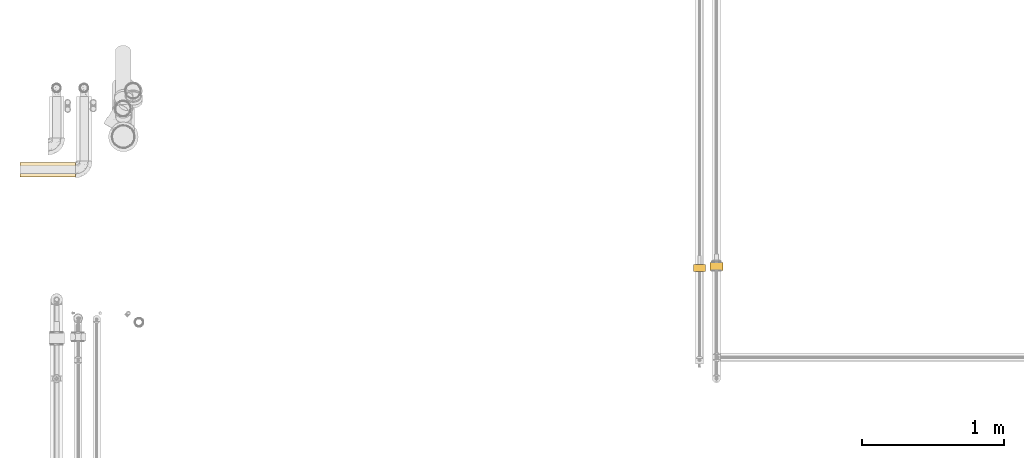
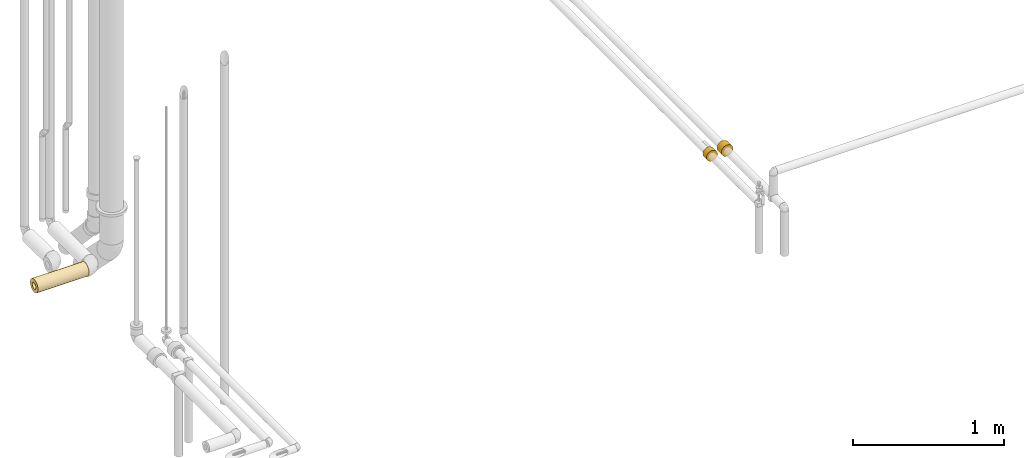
# One storey, part 10 of 78: 3 coverings.
"""IFC2X3 building model written with IfcOpenShell, lengths in millimetres."""

import ifcopenshell
import ifcopenshell.guid

model = None  # the IFC model being written
_history = None  # IfcOwnerHistory: only IFC2X3 demands one
_inside = {}  # id of a spatial element -> (the spatial element, [elements in it])
_under = {}  # id of a project, library or spatial element -> (it, [spatial elements below it])
_declared = {}  # id of a project -> (the project, [libraries it declares])
_typed = {}  # id of a type object -> (the type object, [elements of that type])
_made_of = {}  # id of a material, layer set ... -> (it, [elements and type objects made of it])


def new_model(schema):
    """Start an empty IFC model of exactly this schema.

    Asked for "IFC4X3", IfcOpenShell would pick the latest addendum, in which some entities
    have other attributes; the version numbers below select the first issue.
    IFC2X3 requires an IfcOwnerHistory on every rooted entity: one is made here for all.
    """
    global model, _history
    if schema == "IFC4X3":
        model = ifcopenshell.file(schema_version=(4, 3, 0, 0))
    else:
        model = ifcopenshell.file(schema=schema)
    _inside.clear()
    _under.clear()
    _declared.clear()
    _typed.clear()
    _made_of.clear()
    _history = None
    if model.schema == "IFC2X3":
        org = make("IfcOrganization", Name="unknown")
        user = make(
            "IfcPersonAndOrganization",
            ThePerson=make("IfcPerson", FamilyName="unknown"),
            TheOrganization=org,
        )
        app = make(
            "IfcApplication",
            ApplicationDeveloper=org,
            Version="unknown",
            ApplicationFullName="unknown",
            ApplicationIdentifier="unknown",
        )
        _history = make(
            "IfcOwnerHistory",
            OwningUser=user,
            OwningApplication=app,
            ChangeAction="ADDED",
            CreationDate=0,
        )
    return model


def make(cls, **values):
    """One entity of the class cls with the attributes given. An attribute that is None is left unset."""
    return model.create_entity(
        cls, **{name: value for name, value in values.items() if value is not None}
    )


def entity(cls, *values):
    """Any entity or typed value of the class cls, its attributes in the order of the schema. None: left unset."""
    e = model.create_entity(cls)
    for i, value in enumerate(values):
        if value is not None:
            e[i] = value
    return e


def rooted(cls, **values):
    """An entity with a GlobalId (a new one), such as an element, a storey or a relation."""
    return make(cls, GlobalId=ifcopenshell.guid.new(), OwnerHistory=_history, **values)


def si_unit(unit_type, name, prefix=None):
    """IfcSIUnit, for example si_unit("LENGTHUNIT", "METRE", prefix="MILLI")."""
    return make("IfcSIUnit", UnitType=unit_type, Prefix=prefix, Name=name)


def converted_unit(unit_type, name, factor, base, dimensions=None, offset=None):
    """IfcConversionBasedUnit, such as the inch: factor (a typed value) times the base unit."""
    return make(
        "IfcConversionBasedUnit"
        if offset is None
        else "IfcConversionBasedUnitWithOffset",
        ConversionOffset=offset,
        Dimensions=None
        if dimensions is None
        else entity("IfcDimensionalExponents", *dimensions),
        UnitType=unit_type,
        Name=name,
        ConversionFactor=make(
            "IfcMeasureWithUnit", ValueComponent=factor, UnitComponent=base
        ),
    )


def derived_unit(unit_type, elements):
    """IfcDerivedUnit: a product of units, each with its exponent."""
    return make(
        "IfcDerivedUnit",
        Elements=[
            make("IfcDerivedUnitElement", Unit=unit, Exponent=power)
            for unit, power in elements
        ],
        UnitType=unit_type,
    )


def assignment(units):
    """IfcUnitAssignment: the units of a project."""
    return None if units is None else make("IfcUnitAssignment", Units=units)


def point(xyz):
    """IfcCartesianPoint."""
    return None if xyz is None else make("IfcCartesianPoint", Coordinates=xyz)


def direction(xyz):
    """IfcDirection."""
    return None if xyz is None else make("IfcDirection", DirectionRatios=xyz)


def frame(location, z_axis=None, x_axis=None):
    """IfcAxis2Placement3D, a coordinate frame: its origin and axes. An axis left out is left unset."""
    return make(
        "IfcAxis2Placement3D",
        Location=point(location),
        Axis=direction(z_axis),
        RefDirection=direction(x_axis),
    )


def origin_with_axes():
    """The frame at (0, 0, 0) with the z axis (0, 0, 1) and the x axis (1, 0, 0) written out."""
    return frame((0.0, 0.0, 0.0), z_axis=(0.0, 0.0, 1.0), x_axis=(1.0, 0.0, 0.0))


def place(relative_to, where):
    """IfcLocalPlacement: puts the frame where relative to a parent placement (None: the world)."""
    return make(
        "IfcLocalPlacement", PlacementRelTo=relative_to, RelativePlacement=where
    )


def context(
    kind, dimensions, precision=None, world=None, true_north=None, identifier=None
):
    """IfcGeometricRepresentationContext, for example the 3D "Model" context."""
    return make(
        "IfcGeometricRepresentationContext",
        ContextIdentifier=identifier,
        ContextType=kind,
        CoordinateSpaceDimension=dimensions,
        Precision=precision,
        WorldCoordinateSystem=world,
        TrueNorth=true_north,
    )


def subcontext(parent, identifier, kind, view, scale=None):
    """IfcGeometricRepresentationSubContext, for example "Body" below "Model"."""
    return make(
        "IfcGeometricRepresentationSubContext",
        ContextIdentifier=identifier,
        ContextType=kind,
        ParentContext=parent,
        TargetScale=scale,
        TargetView=view,
    )


def project(units=None, contexts=None):
    """IfcProject with its units and contexts."""
    return rooted(
        "IfcProject",
        Name="project",
        RepresentationContexts=contexts,
        UnitsInContext=assignment(units),
    )


def spatial(cls, under=None, at=None, **own):
    """A site, building, storey or space (cls), placed at a placement, below another one or the project."""
    s = rooted(cls, ObjectPlacement=at, **own)
    if under is not None:
        _under.setdefault(under.id(), (under, []))[1].append(s)
    return s


def faces_of(points, faces, orient=None, outer=None):
    """IfcFace entities. A face is a list of loops; a loop is a list of indices into points, from 0.

    orient and outer hold one flag for each loop. By default every Orientation is true, the
    first loop of a face is its IfcFaceOuterBound and the others are IfcFaceBound.
    """
    made = []
    for i, loops in enumerate(faces):
        bounds = []
        for j, loop in enumerate(loops):
            is_outer = j == 0 if outer is None else outer[i][j]
            bounds.append(
                make(
                    "IfcFaceOuterBound" if is_outer else "IfcFaceBound",
                    Bound=make("IfcPolyLoop", Polygon=[points[k] for k in loop]),
                    Orientation=True if orient is None else orient[i][j],
                )
            )
        made.append(make("IfcFace", Bounds=bounds))
    return made


def open_shell(faces, orient=None, outer=None):
    """The faces of one IfcOpenShell. surface_model builds it on its shared points."""
    return ("IfcOpenShell", faces, orient, outer)


def faceted_brep(points, faces, orient=None, outer=None, voids=None):
    """IfcFacetedBrep: a solid bounded by flat faces; with voids (closed shells), ...WithVoids."""
    shared = [point(p) for p in points]
    hull = make("IfcClosedShell", CfsFaces=faces_of(shared, faces, orient, outer))
    if voids is None:
        return make("IfcFacetedBrep", Outer=hull)
    return make(
        "IfcFacetedBrepWithVoids",
        Outer=hull,
        Voids=[
            make(cls, CfsFaces=faces_of(shared, fs, o, b)) for cls, fs, o, b in voids
        ],
    )


def surface_model(cls, points, shells):
    """IfcFaceBasedSurfaceModel or IfcShellBasedSurfaceModel (cls): surfaces that need not close."""
    shared = [point(p) for p in points]
    made = [make(c, CfsFaces=faces_of(shared, fs, o, b)) for c, fs, o, b in shells]
    if cls == "IfcFaceBasedSurfaceModel":
        return make(cls, FbsmFaces=made)
    return make(cls, SbsmBoundary=made)


def shape(context_of_items, identifier, shape_type, items):
    """IfcShapeRepresentation: the items that make up one representation, for example the "Body"."""
    return make(
        "IfcShapeRepresentation",
        ContextOfItems=context_of_items,
        RepresentationIdentifier=identifier,
        RepresentationType=shape_type,
        Items=items,
    )


def source(mapping_origin, context_of_items, identifier, shape_type, items):
    """IfcRepresentationMap: a shape defined once, which mapped items show again and again."""
    return make(
        "IfcRepresentationMap",
        MappingOrigin=mapping_origin,
        MappedRepresentation=shape(context_of_items, identifier, shape_type, items),
    )


def transform(
    local_origin,
    x_axis=None,
    y_axis=None,
    z_axis=None,
    scale=None,
    scale2=None,
    scale3=None,
    uniform=True,
):
    """IfcCartesianTransformationOperator3D, or its non-uniform kind. x_axis, y_axis, z_axis: its Axis1, 2, 3."""
    if uniform:
        return make(
            "IfcCartesianTransformationOperator3D",
            Axis1=direction(x_axis),
            Axis2=direction(y_axis),
            LocalOrigin=point(local_origin),
            Scale=scale,
            Axis3=direction(z_axis),
        )
    return make(
        "IfcCartesianTransformationOperator3DnonUniform",
        Axis1=direction(x_axis),
        Axis2=direction(y_axis),
        LocalOrigin=point(local_origin),
        Scale=scale,
        Axis3=direction(z_axis),
        Scale2=scale2,
        Scale3=scale3,
    )


def mapped(mapping_source, mapping_target):
    """IfcMappedItem: shows the shape of a source again, moved by a transform."""
    return make(
        "IfcMappedItem", MappingSource=mapping_source, MappingTarget=mapping_target
    )


def made_of(thing, what):
    """Note that an element or type object is made of a material, layer set ...; save() writes the relation."""
    if what is not None:
        _made_of.setdefault(what.id(), (what, []))[1].append(thing)
    return thing


def element(
    cls,
    number,
    at=None,
    inside=None,
    cuts=None,
    type_object=None,
    material=None,
    context=None,
    identifier="Body",
    shape_type=None,
    held_by="IfcProductDefinitionShape",
    body=None,
    shapes=None,
    **own,
):
    """One element of the class cls, such as IfcWall. Its Tag is "e" and its number.

    at: its placement. inside: the storey or other place that contains it. cuts: it is an
    opening in that element (IfcRelVoidsElement). A single representation is given by context,
    identifier, shape_type and body (its items); several are given by shapes. held_by: the class
    of the entity that holds the representations. save() writes the other relations.
    """
    e = rooted(cls, Tag="e%d" % number, ObjectPlacement=at, **own)
    if body is not None:
        shapes = [shape(context, identifier, shape_type, body)]
    if shapes is not None:
        e.Representation = make(held_by, Representations=shapes)
    if inside is not None:
        _inside.setdefault(inside.id(), (inside, []))[1].append(e)
    if cuts is not None:
        rooted(
            "IfcRelVoidsElement", RelatingBuildingElement=cuts, RelatedOpeningElement=e
        )
    if type_object is not None:
        _typed.setdefault(type_object.id(), (type_object, []))[1].append(e)
    return made_of(e, material)


def aggregate(whole, parts):
    """IfcRelAggregates: a whole, such as a stair, and the parts it consists of."""
    return rooted("IfcRelAggregates", RelatingObject=whole, RelatedObjects=parts)


def save(model, path):
    """Write the relations noted so far, then the file.

    IfcRelAggregates (storeys below a building ...), IfcRelContainedInSpatialStructure (elements
    in a storey), IfcRelDefinesByType, IfcRelAssociatesMaterial and IfcRelDeclares: one each for
    every whole, place, type object, material and project.
    """
    for whole, parts in _under.values():
        aggregate(whole, parts)
    for where, things in _inside.values():
        rooted(
            "IfcRelContainedInSpatialStructure",
            RelatedElements=things,
            RelatingStructure=where,
        )
    for kind, things in _typed.values():
        rooted("IfcRelDefinesByType", RelatedObjects=things, RelatingType=kind)
    for what, things in _made_of.values():
        rooted("IfcRelAssociatesMaterial", RelatedObjects=things, RelatingMaterial=what)
    for by, libraries in _declared.values():
        rooted("IfcRelDeclares", RelatingContext=by, RelatedDefinitions=libraries)
    model.write(path)


model = new_model("IFC2X3")

# Units and contexts
model_context = context("Model", 3, precision=0.01, world=frame((0.0, 4.29681676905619e-09, 0.0)), true_north=direction((4.01073788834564e-13, 1.0)))
plan_context = context("Plan", 3, precision=0.01, world=frame((0.0, 4.29681676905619e-09, 0.0)), true_north=direction((4.01073788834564e-13, 1.0)))
body_context = subcontext(model_context, "Body", "Model", "MODEL_VIEW")
ifc_project = project(units=[converted_unit("PLANEANGLEUNIT", "DEGREE", entity("IfcPositiveLengthMeasure", 0.0174532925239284), si_unit("PLANEANGLEUNIT", "RADIAN"), dimensions=[0, 0, 0, 0, 0, 0, 0]), si_unit("AREAUNIT", "SQUARE_METRE"), si_unit("LENGTHUNIT", "METRE", prefix="MILLI"), si_unit("MASSUNIT", "GRAM", prefix="KILO"), si_unit("POWERUNIT", "WATT"), si_unit("PRESSUREUNIT", "PASCAL"), si_unit("FORCEUNIT", "NEWTON", prefix="KILO"), si_unit("ELECTRICVOLTAGEUNIT", "VOLT"), si_unit("ELECTRICCURRENTUNIT", "AMPERE"), si_unit("THERMODYNAMICTEMPERATUREUNIT", "DEGREE_CELSIUS"), si_unit("TIMEUNIT", "SECOND"), si_unit("VOLUMEUNIT", "CUBIC_METRE"), derived_unit("LINEARVELOCITYUNIT", [(si_unit("LENGTHUNIT", "METRE"), 1), (si_unit("TIMEUNIT", "SECOND"), -1)]), derived_unit("VOLUMETRICFLOWRATEUNIT", [(si_unit("VOLUMEUNIT", "CUBIC_METRE"), 1), (si_unit("TIMEUNIT", "SECOND"), -1)]), derived_unit("THERMALTRANSMITTANCEUNIT", [(si_unit("POWERUNIT", "WATT"), 1), (si_unit("THERMODYNAMICTEMPERATUREUNIT", "KELVIN"), -1), (si_unit("AREAUNIT", "SQUARE_METRE"), -1)]), derived_unit("SOUNDPRESSUREUNIT", [(si_unit("PRESSUREUNIT", "PASCAL"), 1)])], contexts=[model_context, plan_context])

# Site, building, storey
site_placement = place(None, frame((0.0, -4.29681676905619e-09, 0.0), z_axis=(0.0, 0.0, 1.0), x_axis=(1.0, 0.0, 0.0)))
site = spatial("IfcSite", under=ifc_project, at=site_placement, Name="ENGM", CompositionType="ELEMENT")
building_placement = place(site_placement, frame((0.0, 4.29681676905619e-09, 0.0), z_axis=(0.0, 0.0, 1.0), x_axis=(1.0, 0.0, 0.0)))
building = spatial("IfcBuilding", under=site, at=building_placement, Name="TH", CompositionType="ELEMENT")
storey_placement = place(building_placement, frame((0.0, 0.0, 205200.0), z_axis=(0.0, 0.0, 1.0), x_axis=(1.0, 0.0, 0.0)))
storey = spatial("IfcBuildingStorey", under=building, at=storey_placement, Name="Nivå D + 1,2 m", CompositionType="ELEMENT", Elevation=205200.0)

# Coverings
shared_shape_1 = source(origin_with_axes(), body_context, "Body", "SurfaceModel", [
    surface_model("IfcShellBasedSurfaceModel", [(-24.5, 10.93769, 40.82002), (-24.5, -10.93769, 40.82002), (-24.5, 0.0, 42.26), (-24.5, 29.88233, 29.88233), (-24.5, 21.13, 36.59823), (-24.5, 36.59823, 21.13), (-24.5, 40.82002, 10.93769), (-24.5, -29.88233, 29.88233), (-24.5, -21.13, 36.59823), (-24.5, -36.59823, 21.13), (-24.5, -40.82002, 10.93769), (-24.5, -40.82002, -10.93769), (-24.5, -42.26, 0.0), (-24.5, 40.82002, -10.93769), (-24.5, 10.93769, -40.82002), (-24.5, 36.59823, -21.13), (-24.5, 29.88233, -29.88233), (-24.5, 21.13, -36.59823), (-24.5, -21.13, -36.59823), (-24.5, -36.59823, -21.13), (-24.5, -29.88233, -29.88233), (-24.5, 0.0, -42.26), (-24.5, -10.93769, -40.82002), (-24.5, 42.26, 0.0), (-8.15, 42.26, 0.0), (7.0, 40.82002, 10.93769), (7.0, 36.59823, 21.13), (7.0, 42.26, 0.0), (7.0, 29.88233, 29.88233), (7.0, 21.13, 36.59823), (-8.15, 0.0, 42.26), (7.0, 10.93769, 40.82002), (7.0, 0.0, 42.26), (7.0, -10.93769, 40.82002), (7.0, -21.13, 36.59823), (7.0, -29.88233, 29.88233), (7.0, -36.59823, 21.13), (-8.15, -42.26, 0.0), (7.0, -40.82002, 10.93769), (7.0, -42.26, 0.0), (7.0, -40.82002, -10.93769), (7.0, -36.59823, -21.13), (7.0, -29.88233, -29.88233), (7.0, -21.13, -36.59823), (7.0, -10.93769, -40.82002), (-8.15, 0.0, -42.26), (7.0, 0.0, -42.26), (7.0, 10.93769, -40.82002), (7.0, 21.13, -36.59823), (7.0, 29.88233, -29.88233), (7.0, 36.59823, -21.13), (7.0, 40.82002, -10.93769), (24.5, -10.93769, 40.82002), (24.5, 10.93769, 40.82002), (24.5, 0.0, 42.26), (24.5, -29.88233, 29.88233), (24.5, -21.13, 36.59823), (24.5, -36.59823, 21.13), (24.5, -40.82002, 10.93769), (24.5, 29.88233, 29.88233), (24.5, 21.13, 36.59823), (24.5, 36.59823, 21.13), (24.5, 40.82002, 10.93769), (24.5, 40.82002, -10.93769), (24.5, 42.26, 0.0), (24.5, -40.82002, -10.93769), (24.5, -10.93769, -40.82002), (24.5, -36.59823, -21.13), (24.5, -29.88233, -29.88233), (24.5, -21.13, -36.59823), (24.5, 21.13, -36.59823), (24.5, 36.59823, -21.13), (24.5, 29.88233, -29.88233), (24.5, 0.0, -42.26), (24.5, 10.93769, -40.82002), (24.5, -42.26, 0.0)], [open_shell([[[0, 1, 2]], [[3, 0, 4]], [[3, 5, 6]], [[3, 6, 0]], [[1, 0, 6]], [[1, 7, 8]], [[7, 1, 9]], [[10, 11, 12]], [[9, 1, 6]], [[10, 9, 11]], [[9, 6, 13]], [[11, 9, 13]], [[14, 13, 15]], [[16, 17, 14]], [[16, 14, 15]], [[18, 13, 14]], [[19, 18, 20]], [[19, 11, 13]], [[18, 21, 22]], [[18, 19, 13]], [[21, 18, 14]], [[13, 6, 23]], [[24, 23, 6]], [[24, 6, 25]], [[26, 6, 5]], [[27, 24, 25]], [[26, 25, 6]], [[28, 26, 5]], [[5, 3, 28]], [[4, 29, 28]], [[4, 0, 29]], [[30, 0, 2]], [[29, 0, 31]], [[30, 32, 31]], [[0, 30, 31]], [[4, 28, 3]], [[30, 2, 1]], [[30, 1, 33]], [[34, 1, 8]], [[32, 30, 33]], [[34, 33, 1]], [[35, 34, 8]], [[8, 7, 35]], [[36, 7, 9]], [[10, 12, 37]], [[38, 9, 10]], [[36, 9, 38]], [[37, 39, 38]], [[10, 37, 38]], [[7, 36, 35]], [[37, 12, 11]], [[37, 11, 40]], [[41, 11, 19]], [[39, 37, 40]], [[41, 40, 11]], [[42, 41, 19]], [[19, 20, 42]], [[43, 20, 18]], [[18, 22, 44]], [[21, 45, 22]], [[43, 18, 44]], [[45, 46, 44]], [[22, 45, 44]], [[20, 43, 42]], [[45, 21, 14]], [[45, 14, 47]], [[48, 14, 17]], [[46, 45, 47]], [[48, 47, 14]], [[49, 48, 17]], [[17, 16, 49]], [[50, 16, 15]], [[15, 13, 51]], [[23, 24, 13]], [[50, 15, 51]], [[24, 27, 51]], [[13, 24, 51]], [[16, 50, 49]], [[52, 53, 54]], [[55, 52, 56]], [[55, 57, 58]], [[55, 58, 52]], [[53, 52, 58]], [[53, 59, 60]], [[59, 53, 61]], [[62, 63, 64]], [[61, 53, 58]], [[62, 61, 63]], [[61, 58, 65]], [[63, 61, 65]], [[66, 65, 67]], [[68, 69, 66]], [[68, 66, 67]], [[70, 65, 66]], [[71, 70, 72]], [[71, 63, 65]], [[70, 73, 74]], [[70, 71, 65]], [[73, 70, 66]], [[65, 58, 75]], [[38, 75, 58]], [[36, 58, 57]], [[39, 75, 38]], [[36, 38, 58]], [[35, 36, 57]], [[57, 55, 35]], [[34, 55, 56]], [[33, 56, 52]], [[34, 56, 33]], [[32, 33, 52]], [[54, 32, 52]], [[55, 34, 35]], [[31, 54, 53]], [[29, 53, 60]], [[32, 54, 31]], [[29, 31, 53]], [[28, 29, 60]], [[60, 59, 28]], [[26, 59, 61]], [[25, 61, 62]], [[26, 61, 25]], [[27, 25, 62]], [[64, 27, 62]], [[59, 26, 28]], [[51, 64, 63]], [[50, 63, 71]], [[27, 64, 51]], [[50, 51, 63]], [[49, 50, 71]], [[71, 72, 49]], [[48, 72, 70]], [[47, 70, 74]], [[48, 70, 47]], [[46, 47, 74]], [[73, 46, 74]], [[72, 48, 49]], [[44, 73, 66]], [[43, 66, 69]], [[46, 73, 44]], [[43, 44, 66]], [[42, 43, 69]], [[69, 68, 42]], [[41, 68, 67]], [[40, 67, 65]], [[41, 67, 40]], [[39, 40, 65]], [[75, 39, 65]], [[68, 41, 42]]])]),
])
covering_1_placement = place(storey_placement, frame((899890.50163, 478903.93178, 4212.79203000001), z_axis=(0.0, 0.0, 1.0), x_axis=(0.0, 1.0, 0.0)))
element("IfcCovering", 1, at=covering_1_placement, inside=storey, Name="BI16T - Rørskål m/Al.folie - VV 40mm", PredefinedType="INSULATION", context=body_context, shape_type="MappedRepresentation", body=[
    mapped(shared_shape_1, transform((0.0, 0.0, 0.0), scale=1.0)),
])
shared_shape_2 = source(origin_with_axes(), body_context, "Body", "SurfaceModel", [
    surface_model("IfcShellBasedSurfaceModel", [(-29.0, 0.0, 44.94), (-29.0, 11.63133, 43.40871), (-29.0, 22.47, 38.91918), (-29.0, -38.91918, 22.47), (-29.0, 31.77738, 31.77738), (-29.0, 38.91918, 22.47), (-29.0, 43.40871, 11.63133), (-29.0, -11.63133, 43.40871), (-29.0, -31.77738, 31.77738), (-29.0, -22.47, 38.91918), (-29.0, -43.40871, 11.63133), (-29.0, -43.40871, -11.63133), (-29.0, -44.94, 0.0), (-29.0, 44.94, 0.0), (-29.0, 43.40871, -11.63133), (-29.0, -22.47, -38.91918), (-29.0, 11.63133, -43.40871), (-29.0, 38.91918, -22.47), (-29.0, 22.47, -38.91918), (-29.0, 31.77738, -31.77738), (-29.0, -31.77738, -31.77738), (-29.0, -38.91918, -22.47), (-29.0, 0.0, -44.94), (-29.0, -11.63133, -43.40871), (-5.2, 44.94, 0.0), (4.0, 43.40871, 11.63133), (4.0, 38.91918, 22.47), (4.0, 44.94, 0.0), (4.0, 31.77738, 31.77738), (4.0, 22.47, 38.91918), (-5.2, 0.0, 44.94), (4.0, 11.63133, 43.40871), (4.0, 0.0, 44.94), (4.0, -11.63133, 43.40871), (4.0, -22.47, 38.91918), (4.0, -31.77738, 31.77738), (4.0, -38.91918, 22.47), (-5.2, -44.94, 0.0), (4.0, -43.40871, 11.63133), (4.0, -44.94, 0.0), (4.0, -43.40871, -11.63133), (4.0, -38.91918, -22.47), (4.0, -31.77738, -31.77738), (4.0, -22.47, -38.91918), (4.0, -11.63133, -43.40871), (-5.2, 0.0, -44.94), (4.0, 0.0, -44.94), (4.0, 11.63133, -43.40871), (4.0, 22.47, -38.91918), (4.0, 31.77738, -31.77738), (4.0, 38.91918, -22.47), (4.0, 43.40871, -11.63133), (29.0, 0.0, 44.94), (29.0, -11.63133, 43.40871), (29.0, -22.47, 38.91918), (29.0, 38.91918, 22.47), (29.0, -31.77738, 31.77738), (29.0, -38.91918, 22.47), (29.0, -43.40871, 11.63133), (29.0, 11.63133, 43.40871), (29.0, 31.77738, 31.77738), (29.0, 22.47, 38.91918), (29.0, 43.40871, 11.63133), (29.0, 43.40871, -11.63133), (29.0, 44.94, 0.0), (29.0, -44.94, 0.0), (29.0, -43.40871, -11.63133), (29.0, 22.47, -38.91918), (29.0, -11.63133, -43.40871), (29.0, -38.91918, -22.47), (29.0, -22.47, -38.91918), (29.0, -31.77738, -31.77738), (29.0, 31.77738, -31.77738), (29.0, 38.91918, -22.47), (29.0, 0.0, -44.94), (29.0, 11.63133, -43.40871)], [open_shell([[[0, 1, 2]], [[3, 0, 2]], [[4, 5, 6]], [[4, 6, 2]], [[3, 2, 6]], [[7, 8, 9]], [[8, 7, 3]], [[10, 11, 12]], [[3, 7, 0]], [[10, 3, 11]], [[3, 6, 13]], [[14, 15, 13]], [[16, 14, 17]], [[18, 16, 17]], [[18, 17, 19]], [[15, 14, 16]], [[11, 20, 21]], [[20, 11, 15]], [[15, 22, 23]], [[15, 11, 13]], [[16, 22, 15]], [[13, 11, 3]], [[24, 13, 6]], [[24, 6, 25]], [[26, 6, 5]], [[27, 24, 25]], [[26, 25, 6]], [[28, 26, 5]], [[5, 4, 28]], [[2, 29, 28]], [[2, 1, 29]], [[30, 1, 0]], [[29, 1, 31]], [[30, 32, 31]], [[1, 30, 31]], [[2, 28, 4]], [[30, 0, 7]], [[30, 7, 33]], [[34, 7, 9]], [[32, 30, 33]], [[34, 33, 7]], [[35, 34, 9]], [[9, 8, 35]], [[36, 8, 3]], [[10, 12, 37]], [[38, 3, 10]], [[36, 3, 38]], [[37, 39, 38]], [[10, 37, 38]], [[8, 36, 35]], [[37, 12, 11]], [[37, 11, 40]], [[41, 11, 21]], [[39, 37, 40]], [[41, 40, 11]], [[42, 41, 21]], [[21, 20, 42]], [[43, 20, 15]], [[15, 23, 44]], [[22, 45, 23]], [[43, 15, 44]], [[45, 46, 44]], [[23, 45, 44]], [[20, 43, 42]], [[45, 22, 16]], [[45, 16, 47]], [[48, 16, 18]], [[46, 45, 47]], [[48, 47, 16]], [[49, 48, 18]], [[18, 19, 49]], [[50, 19, 17]], [[17, 14, 51]], [[13, 24, 14]], [[50, 17, 51]], [[24, 27, 51]], [[14, 24, 51]], [[19, 50, 49]], [[52, 53, 54]], [[55, 52, 54]], [[56, 57, 58]], [[56, 58, 54]], [[55, 54, 58]], [[59, 60, 61]], [[60, 59, 55]], [[62, 63, 64]], [[55, 59, 52]], [[62, 55, 63]], [[55, 58, 65]], [[66, 67, 65]], [[68, 66, 69]], [[70, 68, 69]], [[70, 69, 71]], [[67, 66, 68]], [[63, 72, 73]], [[72, 63, 67]], [[67, 74, 75]], [[67, 63, 65]], [[68, 74, 67]], [[65, 63, 55]], [[38, 65, 58]], [[36, 58, 57]], [[39, 65, 38]], [[36, 38, 58]], [[35, 36, 57]], [[57, 56, 35]], [[56, 54, 34]], [[34, 53, 33]], [[53, 34, 54]], [[32, 33, 53]], [[53, 52, 32]], [[56, 34, 35]], [[31, 52, 59]], [[29, 59, 61]], [[32, 52, 31]], [[29, 31, 59]], [[28, 29, 61]], [[61, 60, 28]], [[26, 60, 55]], [[25, 55, 62]], [[26, 55, 25]], [[27, 25, 62]], [[64, 27, 62]], [[60, 26, 28]], [[51, 64, 63]], [[50, 63, 73]], [[27, 64, 51]], [[50, 51, 63]], [[49, 50, 73]], [[73, 72, 49]], [[48, 72, 67]], [[47, 67, 75]], [[48, 67, 47]], [[46, 47, 75]], [[74, 46, 75]], [[72, 48, 49]], [[44, 74, 68]], [[43, 68, 70]], [[46, 74, 44]], [[43, 44, 68]], [[42, 43, 70]], [[70, 71, 42]], [[41, 71, 69]], [[40, 69, 66]], [[41, 69, 40]], [[39, 40, 66]], [[65, 39, 66]], [[71, 41, 42]]])]),
])
covering_2_placement = place(storey_placement, frame((900010.50163, 478913.96045, 4210.0), z_axis=(0.0, 3.999999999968e-06, -0.999999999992), x_axis=(0.0, 0.999999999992, 3.999999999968e-06)))
element("IfcCovering", 2, at=covering_2_placement, inside=storey, Name="BI20T - Cellegummi 13 mm kalde rør", PredefinedType="INSULATION", context=body_context, shape_type="MappedRepresentation", body=[
    mapped(shared_shape_2, transform((0.0, 0.0, 0.0), scale=1.0)),
])
covering_3_placement = place(storey_placement, frame((895502.41931, 479594.31945, 4400.0), z_axis=(0.0, 0.0, 1.0), x_axis=(-1.0, 0.0, 0.0)))
element("IfcCovering", 3, at=covering_3_placement, inside=storey, Name="BI20T - Cellegummi 13 mm kalde rør", PredefinedType="INSULATION", context=body_context, shape_type="Brep", body=[
    faceted_brep([(390.513141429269, 25.0, 0.0), (390.513141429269, 24.6201938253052, -4.34120444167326), (0.0, 24.6201938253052, -4.34120444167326), (0.0, 25.0, 0.0), (390.513141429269, 23.4923155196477, -8.55050358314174), (0.0, 23.4923155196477, -8.55050358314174), (390.513141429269, 21.650635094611, -12.5), (0.0, 21.650635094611, -12.5), (390.513141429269, 19.1511110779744, -16.0696902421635), (0.0, 19.1511110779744, -16.0696902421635), (390.513141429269, 16.0696902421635, -19.1511110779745), (0.0, 16.0696902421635, -19.1511110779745), (390.513141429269, 12.5, -21.650635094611), (0.0, 12.5, -21.650635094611), (390.513141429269, 8.5505035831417, -23.4923155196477), (0.0, 8.5505035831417, -23.4923155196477), (390.513141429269, 4.34120444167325, -24.6201938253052), (0.0, 4.34120444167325, -24.6201938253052), (390.513141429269, -4.59242549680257e-15, -25.0), (0.0, -4.59242549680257e-15, -25.0), (390.513141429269, -4.34120444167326, -24.6201938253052), (0.0, -4.34120444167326, -24.6201938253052), (390.513141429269, -8.55050358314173, -23.4923155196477), (0.0, -8.55050358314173, -23.4923155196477), (390.513141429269, -12.5, -21.650635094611), (0.0, -12.5, -21.650635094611), (390.513141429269, -16.0696902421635, -19.1511110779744), (0.0, -16.0696902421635, -19.1511110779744), (390.513141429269, -19.1511110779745, -16.0696902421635), (0.0, -19.1511110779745, -16.0696902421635), (390.513141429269, -21.650635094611, -12.5), (0.0, -21.650635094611, -12.5), (390.513141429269, -23.4923155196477, -8.55050358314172), (0.0, -23.4923155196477, -8.55050358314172), (390.513141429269, -24.6201938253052, -4.34120444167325), (0.0, -24.6201938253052, -4.34120444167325), (390.513141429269, -25.0, 3.06161699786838e-15), (0.0, -25.0, 3.06161699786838e-15), (390.513141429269, -24.6201938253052, 4.34120444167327), (0.0, -24.6201938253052, 4.34120444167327), (390.513141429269, -23.4923155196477, 8.55050358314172), (0.0, -23.4923155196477, 8.55050358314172), (390.513141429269, -21.650635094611, 12.5), (0.0, -21.650635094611, 12.5), (390.513141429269, -19.1511110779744, 16.0696902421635), (0.0, -19.1511110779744, 16.0696902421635), (390.513141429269, -16.0696902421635, 19.1511110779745), (0.0, -16.0696902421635, 19.1511110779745), (390.513141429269, -12.5, 21.650635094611), (0.0, -12.5, 21.650635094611), (390.513141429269, -8.55050358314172, 23.4923155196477), (0.0, -8.55050358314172, 23.4923155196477), (390.513141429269, -4.34120444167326, 24.6201938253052), (0.0, -4.34120444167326, 24.6201938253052), (390.513141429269, 1.53080849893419e-15, 25.0), (0.0, 1.53080849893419e-15, 25.0), (390.513141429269, 4.34120444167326, 24.6201938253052), (0.0, 4.34120444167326, 24.6201938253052), (390.513141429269, 8.55050358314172, 23.4923155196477), (0.0, 8.55050358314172, 23.4923155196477), (390.513141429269, 12.5, 21.650635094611), (0.0, 12.5, 21.650635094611), (390.513141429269, 16.0696902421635, 19.1511110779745), (0.0, 16.0696902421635, 19.1511110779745), (390.513141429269, 19.1511110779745, 16.0696902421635), (0.0, 19.1511110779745, 16.0696902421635), (390.513141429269, 21.650635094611, 12.5), (0.0, 21.650635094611, 12.5), (390.513141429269, 23.4923155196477, 8.55050358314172), (0.0, 23.4923155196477, 8.55050358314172), (390.513141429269, 24.6201938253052, 4.34120444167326), (0.0, 24.6201938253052, 4.34120444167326), (390.513141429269, 51.2100031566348, -9.02970523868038), (390.513141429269, 52.0, 0.0), (0.0, 52.0, 0.0), (0.0, 51.2100031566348, -9.02970523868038), (390.513141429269, 51.2100031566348, 9.02970523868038), (0.0, 51.2100031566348, 9.02970523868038), (390.513141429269, 48.8640162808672, 17.7850474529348), (0.0, 48.8640162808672, 17.7850474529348), (390.513141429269, 45.0333209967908, 26.0), (0.0, 45.0333209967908, 26.0), (390.513141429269, 39.8343110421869, 33.4249557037), (0.0, 39.8343110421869, 33.4249557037), (390.513141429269, 33.4249557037, 39.8343110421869), (0.0, 33.4249557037, 39.8343110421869), (390.513141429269, 26.0, 45.0333209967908), (0.0, 26.0, 45.0333209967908), (390.513141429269, 17.7850474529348, 48.8640162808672), (0.0, 17.7850474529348, 48.8640162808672), (390.513141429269, 9.02970523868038, 51.2100031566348), (0.0, 9.02970523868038, 51.2100031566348), (390.513141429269, 3.18408167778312e-15, 52.0), (0.0, 3.18408167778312e-15, 52.0), (390.513141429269, -9.02970523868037, 51.2100031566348), (0.0, -9.02970523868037, 51.2100031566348), (390.513141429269, -17.7850474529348, 48.8640162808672), (0.0, -17.7850474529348, 48.8640162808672), (390.513141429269, -26.0, 45.0333209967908), (0.0, -26.0, 45.0333209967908), (390.513141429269, -33.4249557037, 39.8343110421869), (0.0, -33.4249557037, 39.8343110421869), (390.513141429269, -39.8343110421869, 33.4249557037), (0.0, -39.8343110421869, 33.4249557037), (390.513141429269, -45.0333209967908, 26.0), (0.0, -45.0333209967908, 26.0), (390.513141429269, -48.8640162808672, 17.7850474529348), (0.0, -48.8640162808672, 17.7850474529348), (390.513141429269, -51.2100031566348, 9.0297052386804), (0.0, -51.2100031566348, 9.0297052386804), (390.513141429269, -52.0, 6.36816335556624e-15), (0.0, -52.0, 6.36816335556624e-15), (390.513141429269, -51.2100031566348, -9.02970523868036), (0.0, -51.2100031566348, -9.02970523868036), (390.513141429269, -48.8640162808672, -17.7850474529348), (0.0, -48.8640162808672, -17.7850474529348), (390.513141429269, -45.0333209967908, -26.0), (0.0, -45.0333209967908, -26.0), (390.513141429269, -39.8343110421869, -33.4249557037), (0.0, -39.8343110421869, -33.4249557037), (390.513141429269, -33.4249557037, -39.8343110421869), (0.0, -33.4249557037, -39.8343110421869), (390.513141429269, -26.0, -45.0333209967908), (0.0, -26.0, -45.0333209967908), (390.513141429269, -17.7850474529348, -48.8640162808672), (0.0, -17.7850474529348, -48.8640162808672), (390.513141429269, -9.02970523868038, -51.2100031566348), (0.0, -9.02970523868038, -51.2100031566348), (390.513141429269, -9.55224503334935e-15, -52.0), (0.0, -9.55224503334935e-15, -52.0), (390.513141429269, 9.02970523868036, -51.2100031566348), (0.0, 9.02970523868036, -51.2100031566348), (390.513141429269, 17.7850474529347, -48.8640162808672), (0.0, 17.7850474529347, -48.8640162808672), (390.513141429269, 26.0, -45.0333209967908), (0.0, 26.0, -45.0333209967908), (390.513141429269, 33.4249557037, -39.8343110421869), (0.0, 33.4249557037, -39.8343110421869), (390.513141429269, 39.8343110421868, -33.4249557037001), (0.0, 39.8343110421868, -33.4249557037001), (390.513141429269, 45.0333209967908, -26.0), (0.0, 45.0333209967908, -26.0), (390.513141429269, 48.8640162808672, -17.7850474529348), (0.0, 48.8640162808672, -17.7850474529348)], [[[0, 1, 2, 3]], [[1, 4, 5, 2]], [[4, 6, 7, 5]], [[6, 8, 9, 7]], [[8, 10, 11, 9]], [[10, 12, 13, 11]], [[12, 14, 15, 13]], [[14, 16, 17, 15]], [[16, 18, 19, 17]], [[18, 20, 21, 19]], [[20, 22, 23, 21]], [[22, 24, 25, 23]], [[24, 26, 27, 25]], [[26, 28, 29, 27]], [[28, 30, 31, 29]], [[30, 32, 33, 31]], [[32, 34, 35, 33]], [[34, 36, 37, 35]], [[36, 38, 39, 37]], [[38, 40, 41, 39]], [[40, 42, 43, 41]], [[42, 44, 45, 43]], [[44, 46, 47, 45]], [[46, 48, 49, 47]], [[48, 50, 51, 49]], [[50, 52, 53, 51]], [[52, 54, 55, 53]], [[54, 56, 57, 55]], [[56, 58, 59, 57]], [[58, 60, 61, 59]], [[60, 62, 63, 61]], [[62, 64, 65, 63]], [[64, 66, 67, 65]], [[66, 68, 69, 67]], [[68, 70, 71, 69]], [[70, 0, 3, 71]], [[72, 73, 74, 75]], [[73, 76, 77, 74]], [[76, 78, 79, 77]], [[78, 80, 81, 79]], [[80, 82, 83, 81]], [[82, 84, 85, 83]], [[84, 86, 87, 85]], [[86, 88, 89, 87]], [[88, 90, 91, 89]], [[90, 92, 93, 91]], [[92, 94, 95, 93]], [[94, 96, 97, 95]], [[96, 98, 99, 97]], [[98, 100, 101, 99]], [[100, 102, 103, 101]], [[102, 104, 105, 103]], [[104, 106, 107, 105]], [[106, 108, 109, 107]], [[108, 110, 111, 109]], [[110, 112, 113, 111]], [[112, 114, 115, 113]], [[114, 116, 117, 115]], [[116, 118, 119, 117]], [[118, 120, 121, 119]], [[120, 122, 123, 121]], [[122, 124, 125, 123]], [[124, 126, 127, 125]], [[126, 128, 129, 127]], [[128, 130, 131, 129]], [[130, 132, 133, 131]], [[132, 134, 135, 133]], [[134, 136, 137, 135]], [[136, 138, 139, 137]], [[138, 140, 141, 139]], [[140, 142, 143, 141]], [[142, 72, 75, 143]], [[75, 74, 77, 79, 81, 83, 85, 87, 89, 91, 93, 95, 97, 99, 101, 103, 105, 107, 109, 111, 113, 115, 117, 119, 121, 123, 125, 127, 129, 131, 133, 135, 137, 139, 141, 143], [3, 2, 5, 7, 9, 11, 13, 15, 17, 19, 21, 23, 25, 27, 29, 31, 33, 35, 37, 39, 41, 43, 45, 47, 49, 51, 53, 55, 57, 59, 61, 63, 65, 67, 69, 71]], [[142, 140, 138, 136, 134, 132, 130, 128, 126, 124, 122, 120, 118, 116, 114, 112, 110, 108, 106, 104, 102, 100, 98, 96, 94, 92, 90, 88, 86, 84, 82, 80, 78, 76, 73, 72], [70, 68, 66, 64, 62, 60, 58, 56, 54, 52, 50, 48, 46, 44, 42, 40, 38, 36, 34, 32, 30, 28, 26, 24, 22, 20, 18, 16, 14, 12, 10, 8, 6, 4, 1, 0]]], orient=[[False], [False], [False], [False], [False], [False], [False], [False], [False], [False], [False], [False], [False], [False], [False], [False], [False], [False], [False], [False], [False], [False], [False], [False], [False], [False], [False], [False], [False], [False], [False], [False], [False], [False], [False], [False], [False], [False], [False], [False], [False], [False], [False], [False], [False], [False], [False], [False], [False], [False], [False], [False], [False], [False], [False], [False], [False], [False], [False], [False], [False], [False], [False], [False], [False], [False], [False], [False], [False], [False], [False], [False], [False, False], [False, False]]),
])

save(model, "model.ifc")
